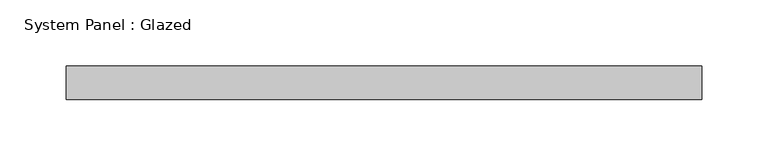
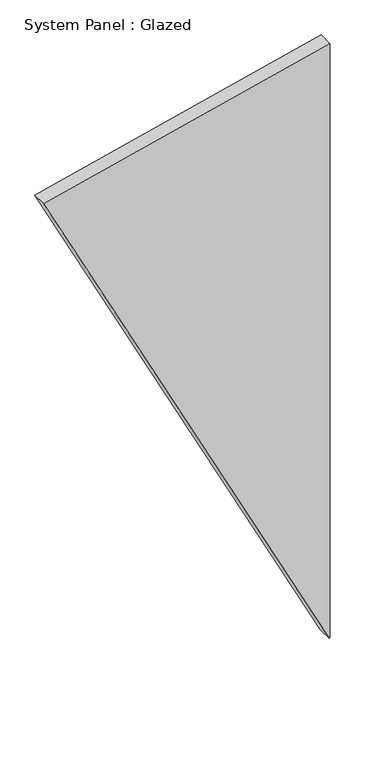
"""IFC4 building model written with IfcOpenShell, lengths in millimetres: plate geometry, System Panel : Glazed."""

from ifc_helpers import new_model, si_unit, frame, origin, place, context, project, spatial, polyline, outline, extrude, source, transform, mapped, element, save


def system_panel_glazed_181d975e(model_context):
    return source(origin(), model_context, "Body", "SweptSolid", [
        extrude(outline(polyline([(0.0, 238.9230269), (0.2803384, 240.0871142), (1052.5040057, 240.0789405), (936.8692175, -240.0871142), (0.0, 238.9230269)])), frame((0.0, -44.45, 0.0), z_axis=(0.0, 1.0, 0.0), x_axis=(0.0, 0.0, 1.0)), (0.0, 0.0, 1.0), 25.4),
    ])


if __name__ == "__main__":
    model = new_model("IFC4")
    model_context = context("Model", 3, world=origin())
    ifc_project = project(units=[si_unit("LENGTHUNIT", "METRE", prefix="MILLI")], contexts=[model_context])
    site = spatial("IfcSite", under=ifc_project)
    building = spatial("IfcBuilding", under=site)
    placement = place(None, origin())
    system_panel_glazed_shape = system_panel_glazed_181d975e(model_context)
    element("IfcPlate", 1, ObjectType="System Panel : Glazed", at=placement, inside=building, context=model_context, shape_type="MappedRepresentation", body=[
        mapped(system_panel_glazed_shape, transform((0.0, 0.0, 0.0), x_axis=(1.0, 0.0, 0.0), y_axis=(0.0, 1.0, 0.0), z_axis=(0.0, 0.0, 1.0))),
    ])
    save(model, "model.ifc")
